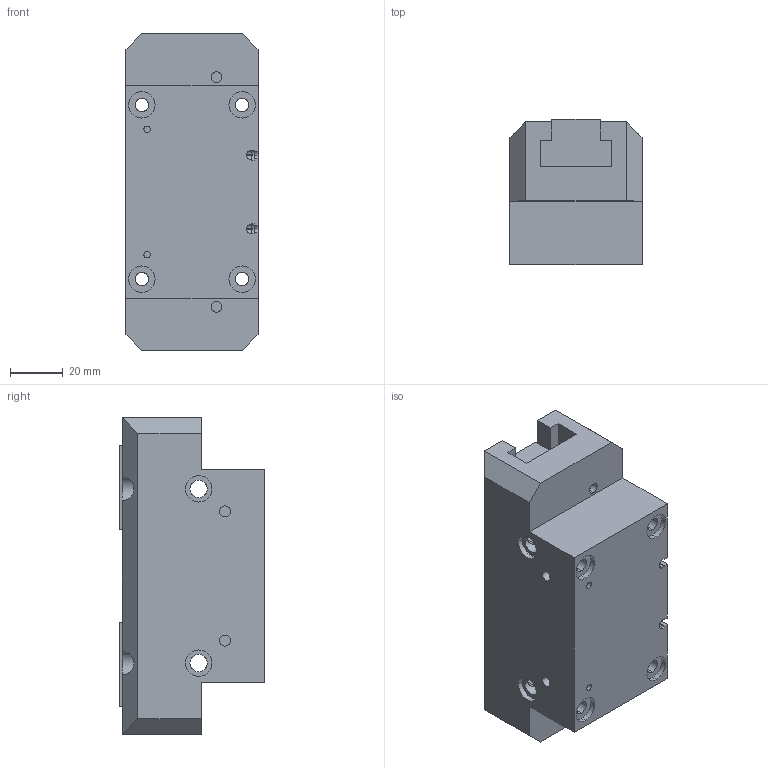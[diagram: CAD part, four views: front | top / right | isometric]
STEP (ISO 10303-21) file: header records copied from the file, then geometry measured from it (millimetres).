
FILE_DESCRIPTION (( 'STEP AP203' ), '1' );
FILE_NAME ('dh4420.STEP', '2011-08-03T08:37:46', ( 'Stefano' ), ( 'Gimatic' ), 'SwSTEP 2.0', 'SolidWorks 2010', '' );
FILE_SCHEMA (( 'CONFIG_CONTROL_DESIGN' ));
Length unit declared in the file: millimetre
Products named in the file (3): dh44_corpo; dh4420; dh44_griffa
Assembly tree (3 placements, depth 2):
  dh4420
    dh44_griffa  x2
    dh44_corpo
Bounding box: 50 x 55 x 120 mm (x, y, z)
Volume: 243808.2 mm3; surface area: 51484.8 mm2
Topology: 3 solids, 3 shells, 192 faces, 496 edges, 312 vertices
Faces by surface type: cylinder 90, plane 90, cone 8, sphere 4
Entity records: 5863 total; most frequent: CARTESIAN_POINT 1396, DIRECTION 878, ORIENTED_EDGE 852, EDGE_CURVE 426, AXIS2_PLACEMENT_3D 316, VERTEX_POINT 274, VECTOR 246, LINE 246
